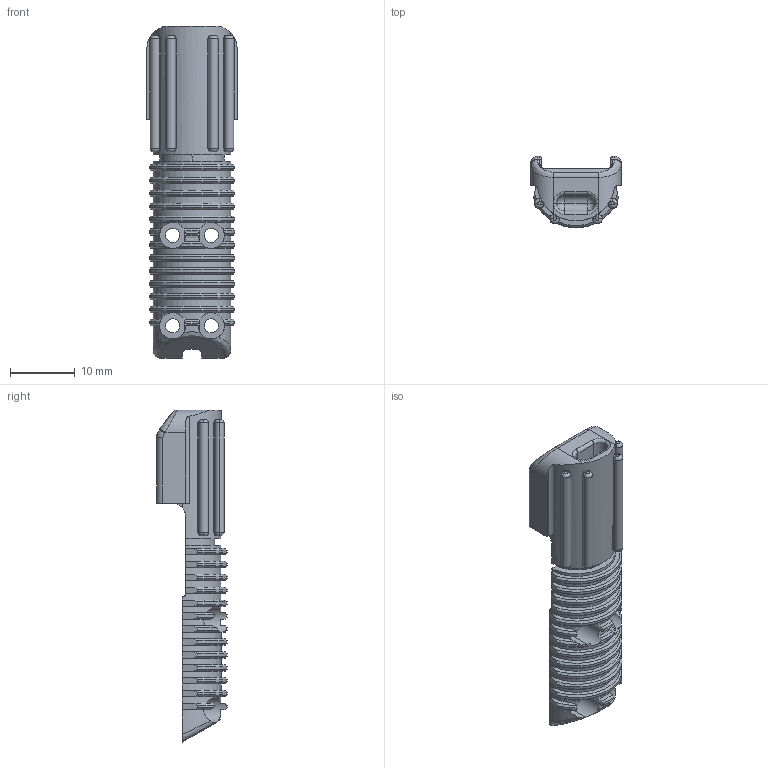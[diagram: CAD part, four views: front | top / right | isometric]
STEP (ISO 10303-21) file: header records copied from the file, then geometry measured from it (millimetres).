
FILE_DESCRIPTION (( 'STEP AP203' ), '1' );
FILE_NAME ('BR01_FOOT_FOREFOOT_v5.STEP');
FILE_SCHEMA (( 'CONFIG_CONTROL_DESIGN' ));
Length unit declared in the file: millimetre
Products named in the file (1): BR01_FOOT_FOREFOOT_v5
Bounding box: 14 x 11 x 51.45 mm (x, y, z)
Volume: 2490.7 mm3; surface area: 3078.1 mm2
Topology: 1 solids, 1 shells, 348 faces, 936 edges, 584 vertices
Faces by surface type: plane 125, cylinder 118, torus 54, cone 38, bspline 9, sphere 4
Entity records: 11637 total; most frequent: CARTESIAN_POINT 3006, ORIENTED_EDGE 1860, DIRECTION 1777, EDGE_CURVE 930, AXIS2_PLACEMENT_3D 699, VERTEX_POINT 584, VECTOR 379, LINE 379
